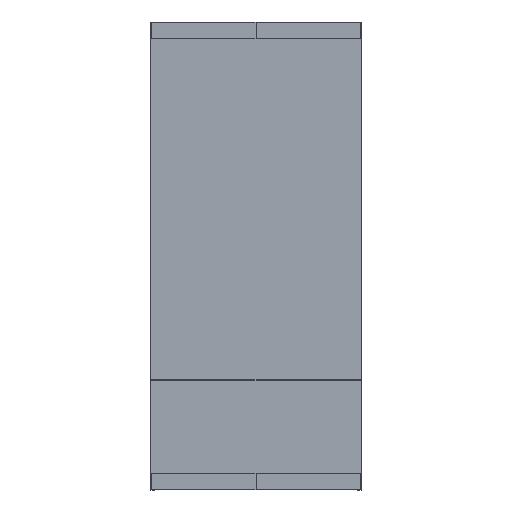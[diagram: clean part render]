
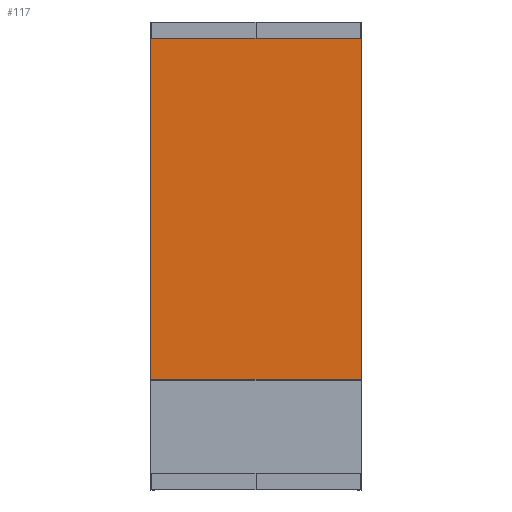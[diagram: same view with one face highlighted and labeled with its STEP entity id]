
A CAD part, top view. The second image highlights one B-rep face of the part: STEP entity #117.
In plain terms, the highlighted planar face has unit normal (0, 0, 1).
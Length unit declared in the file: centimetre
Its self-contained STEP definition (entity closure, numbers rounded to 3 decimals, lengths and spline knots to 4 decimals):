
#117=ADVANCED_FACE($,(#283),#2013,.T.);
#283=FACE_OUTER_BOUND($,#449,.T.);
#449=EDGE_LOOP($,(#862,#863,#864,#865));
#862=ORIENTED_EDGE($,*,*,#1464,.F.);
#863=ORIENTED_EDGE($,*,*,#1465,.F.);
#864=ORIENTED_EDGE($,*,*,#1469,.F.);
#865=ORIENTED_EDGE($,*,*,#1461,.F.);
#1461=EDGE_CURVE($,#1793,#1792,#2257,.T.);
#1464=EDGE_CURVE($,#1796,#1793,#2260,.T.);
#1465=EDGE_CURVE($,#1797,#1796,#2261,.T.);
#1469=EDGE_CURVE($,#1792,#1797,#2265,.T.);
#1792=VERTEX_POINT($,#3420);
#1793=VERTEX_POINT($,#3421);
#1796=VERTEX_POINT($,#3424);
#1797=VERTEX_POINT($,#3425);
#2013=PLANE($,#2647);
#2257=B_SPLINE_CURVE_WITH_KNOTS($,3,(#3392,#3393,#3394,#3395),.UNSPECIFIED.,
.F.,.F.,(4,4),(0.,89.9),.UNSPECIFIED.);
#2260=B_SPLINE_CURVE_WITH_KNOTS($,1,(#3400,#3401),.UNSPECIFIED.,.F.,.F.,
(2,2),(0.,146.),.UNSPECIFIED.);
#2261=B_SPLINE_CURVE_WITH_KNOTS($,1,(#3402,#3403),.UNSPECIFIED.,.F.,.F.,
(2,2),(0.,89.9),.UNSPECIFIED.);
#2265=B_SPLINE_CURVE_WITH_KNOTS($,1,(#3410,#3411),.UNSPECIFIED.,.F.,.F.,
(2,2),(20.,166.),.UNSPECIFIED.);
#2647=AXIS2_PLACEMENT_3D($,#3417,#2816,$);
#2816=DIRECTION($,(0.,0.,1.));
#3392=CARTESIAN_POINT($,(-59.95,-127.,74.51));
#3393=CARTESIAN_POINT($,(-29.9833,-127.,74.51));
#3394=CARTESIAN_POINT($,(-0.0167,-127.,74.51));
#3395=CARTESIAN_POINT($,(29.95,-127.,74.51));
#3400=CARTESIAN_POINT($,(-59.95,-273.,74.51));
#3401=CARTESIAN_POINT($,(-59.95,-127.,74.51));
#3402=CARTESIAN_POINT($,(29.95,-273.,74.51));
#3403=CARTESIAN_POINT($,(-59.95,-273.,74.51));
#3410=CARTESIAN_POINT($,(29.95,-127.,74.51));
#3411=CARTESIAN_POINT($,(29.95,-273.,74.51));
#3417=CARTESIAN_POINT($,(-59.95,-273.,74.51));
#3420=CARTESIAN_POINT($,(29.95,-127.,74.51));
#3421=CARTESIAN_POINT($,(-59.95,-127.,74.51));
#3424=CARTESIAN_POINT($,(-59.95,-273.,74.51));
#3425=CARTESIAN_POINT($,(29.95,-273.,74.51));
